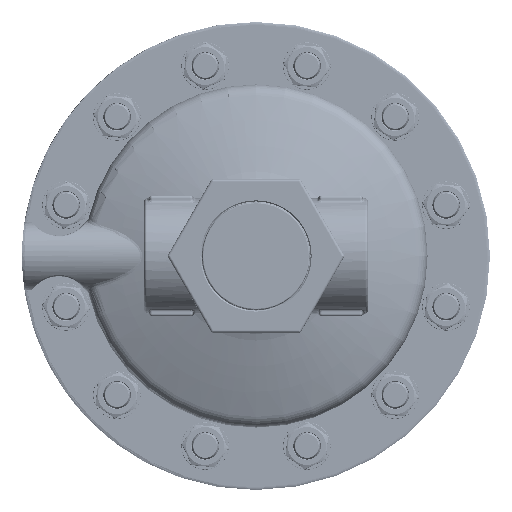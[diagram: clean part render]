
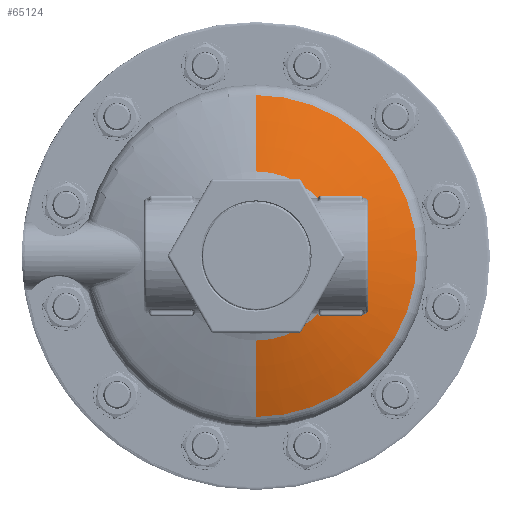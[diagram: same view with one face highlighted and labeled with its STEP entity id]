
A CAD part, front view. The second image highlights one B-rep face of the part: STEP entity #65124.
In plain terms, the highlighted toroidal (fillet/blend) face has major radius 142.846 mm and minor radius 632.934 mm.
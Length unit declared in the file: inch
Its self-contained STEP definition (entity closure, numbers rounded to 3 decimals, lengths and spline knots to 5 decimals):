
#6094 = TOROIDAL_SURFACE ( 'NONE', #78627, -5.62386, 24.91867 ) ;
#6095 = FACE_OUTER_BOUND ( 'NONE', #12519, .T. ) ;
#10856 = VERTEX_POINT ( 'NONE', #35394 ) ;
#12519 = EDGE_LOOP ( 'NONE', ( #46505, #46494, #46668, #46615 ) ) ;
#14406 = DIRECTION ( 'NONE',  ( 0., -1., 0. ) ) ;
#14422 = CARTESIAN_POINT ( 'NONE',  ( 0., 24.64618, 0. ) ) ;
#14433 = DIRECTION ( 'NONE',  ( 0., 0., -1. ) ) ;
#20088 = VERTEX_POINT ( 'NONE', #70180 ) ;
#20974 = CARTESIAN_POINT ( 'NONE',  ( 0., 0.78503, -1.55847 ) ) ;
#21057 = CARTESIAN_POINT ( 'NONE',  ( 0., 1.25481, -2.96591 ) ) ;
#27833 = EDGE_CURVE ( 'NONE', #72837, #72754, #79055, .T. ) ;
#27851 = EDGE_CURVE ( 'NONE', #20088, #10856, #79097, .T. ) ;
#27878 = EDGE_CURVE ( 'NONE', #10856, #72754, #79150, .T. ) ;
#27891 = EDGE_CURVE ( 'NONE', #20088, #72837, #79170, .T. ) ;
#35394 = CARTESIAN_POINT ( 'NONE',  ( 0., 0.78503, 1.55847 ) ) ;
#46494 = ORIENTED_EDGE ( 'NONE', *, *, #27891, .T. ) ;
#46505 = ORIENTED_EDGE ( 'NONE', *, *, #27851, .F. ) ;
#46615 = ORIENTED_EDGE ( 'NONE', *, *, #27878, .F. ) ;
#46668 = ORIENTED_EDGE ( 'NONE', *, *, #27833, .T. ) ;
#64627 = AXIS2_PLACEMENT_3D ( 'NONE', #80857, #80858, #80859 ) ;
#65124 = ADVANCED_FACE ( 'NONE', ( #6095 ), #6094, .T. ) ;
#70180 = CARTESIAN_POINT ( 'NONE',  ( 0., 1.25481, 2.96591 ) ) ;
#72754 = VERTEX_POINT ( 'NONE', #20974 ) ;
#72837 = VERTEX_POINT ( 'NONE', #21057 ) ;
#78627 = AXIS2_PLACEMENT_3D ( 'NONE', #14422, #14406, #14433 ) ;
#79055 = CIRCLE ( 'NONE', #64627, 24.91867 ) ;
#79097 = CIRCLE ( 'NONE', #81552, 24.91867 ) ;
#79150 = CIRCLE ( 'NONE', #81565, 1.55847 ) ;
#79170 = CIRCLE ( 'NONE', #81571, 2.96591 ) ;
#80857 = CARTESIAN_POINT ( 'NONE',  ( 0., 24.64618, 5.62386 ) ) ;
#80858 = DIRECTION ( 'NONE',  ( -1., 0., 0. ) ) ;
#80859 = DIRECTION ( 'NONE',  ( 0., 0., 1. ) ) ;
#80916 = CARTESIAN_POINT ( 'NONE',  ( 0., 24.64618, -5.62386 ) ) ;
#80917 = DIRECTION ( 'NONE',  ( 1., 0., 0. ) ) ;
#80918 = DIRECTION ( 'NONE',  ( 0., 0., -1. ) ) ;
#81155 = CARTESIAN_POINT ( 'NONE',  ( 0., 0.78503, 0. ) ) ;
#81156 = DIRECTION ( 'NONE',  ( 0., -1., 0. ) ) ;
#81157 = DIRECTION ( 'NONE',  ( 0., 0., -1. ) ) ;
#81347 = CARTESIAN_POINT ( 'NONE',  ( 0., 1.25481, 0. ) ) ;
#81348 = DIRECTION ( 'NONE',  ( 0., -1., 0. ) ) ;
#81349 = DIRECTION ( 'NONE',  ( 0., 0., -1. ) ) ;
#81552 = AXIS2_PLACEMENT_3D ( 'NONE', #80916, #80917, #80918 ) ;
#81565 = AXIS2_PLACEMENT_3D ( 'NONE', #81155, #81156, #81157 ) ;
#81571 = AXIS2_PLACEMENT_3D ( 'NONE', #81347, #81348, #81349 ) ;
